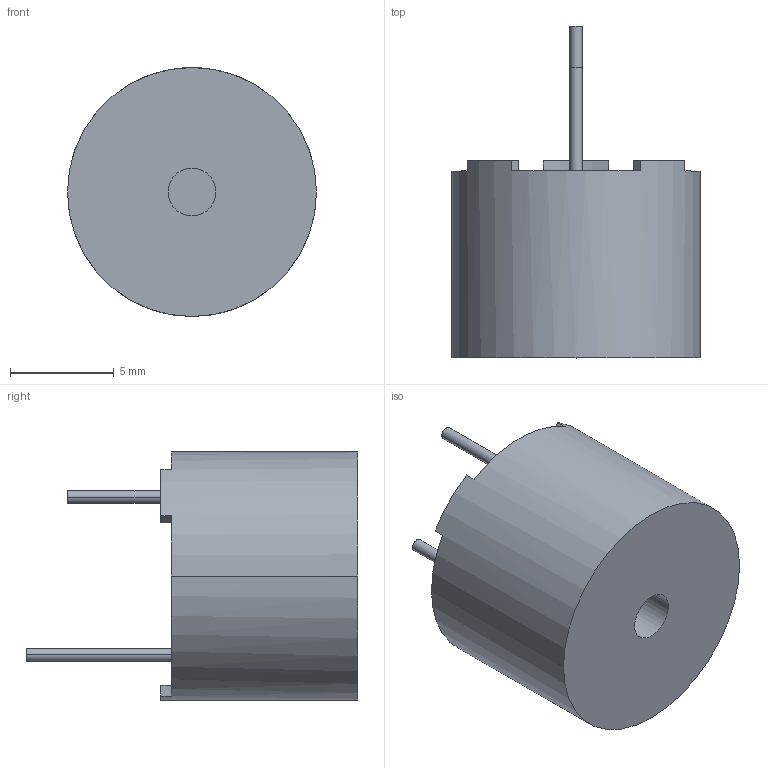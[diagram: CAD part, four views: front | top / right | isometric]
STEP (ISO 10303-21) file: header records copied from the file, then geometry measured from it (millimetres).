
FILE_DESCRIPTION((''),'2;1');
FILE_NAME('SAMPLE3','2021-10-20T17:44:15',('meixiliu'),(''),'CREO PARAMETRIC BY PTC INC, 2018050','CREO PARAMETRIC BY PTC INC, 2018050','');
FILE_SCHEMA(('CONFIG_CONTROL_DESIGN','SHAPE_APPEARANCE_LAYERS_GROUPS'));
Length unit declared in the file: millimetre
Products named in the file (1): SAMPLE3
Bounding box: 12 x 16 x 12 mm (x, y, z)
Volume: 1015.3 mm3; surface area: 614.6 mm2
Topology: 3 solids, 3 shells, 27 faces, 60 edges, 40 vertices
Faces by surface type: plane 16, cylinder 11
Entity records: 829 total; most frequent: DIRECTION 142, CARTESIAN_POINT 127, ORIENTED_EDGE 120, EDGE_CURVE 60, AXIS2_PLACEMENT_3D 55, VERTEX_POINT 40, VECTOR 32, LINE 32
